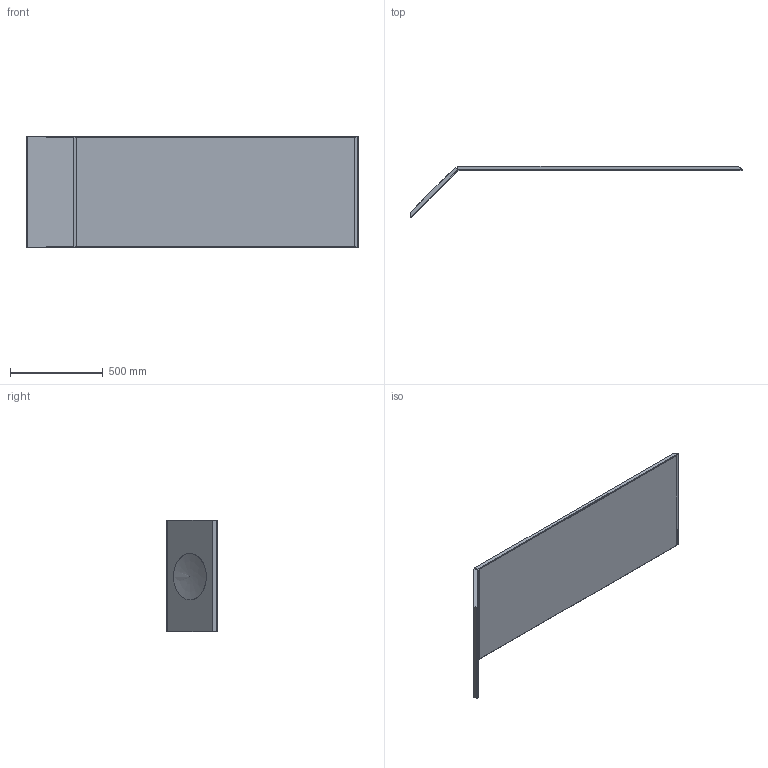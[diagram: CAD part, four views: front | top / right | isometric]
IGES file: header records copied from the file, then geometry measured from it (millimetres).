
Start section: Data from Parasolid IGES Translator 19.0.9, Copyright(c) 2006 Siemens PL M Software. All Rights Reserved.
Global section: file name: noorth-mirror-H 60 D 2,5 W 189_4245.igs; native system: By Siemens PLM Incorporated; preprocessor: XPlus GENERIC/IGES 19.0.9; author: Noname; organization: Noname; date: 20210721.093124; units: metre
Bounding box: 1787.36 x 274.85 x 600 mm (x, y, z)
Volume: 25448964.3 mm3; surface area: 4795633.2 mm2
Topology: 7 solids, 7 shells, 101 faces, 215 edges, 127 vertices
Faces by surface type: plane 83, cylinder 15, bspline 3
Full cylindrical faces by diameter (mm): 250 x1
